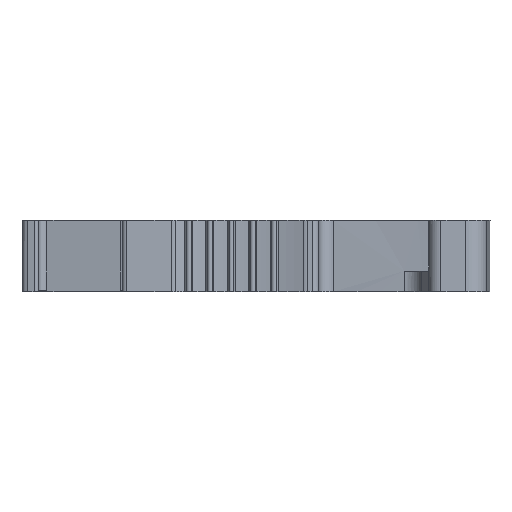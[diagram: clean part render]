
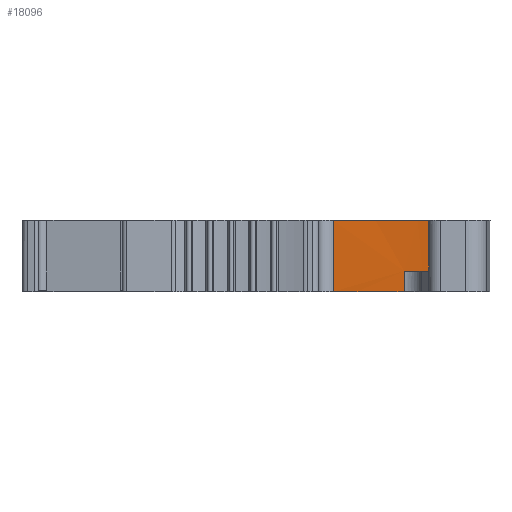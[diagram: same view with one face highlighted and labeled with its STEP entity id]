
A CAD part, left-side view. The second image highlights one B-rep face of the part: STEP entity #18096.
In plain terms, the highlighted cylindrical face has radius 89.942 mm (diameter 179.883 mm), a partial arc.
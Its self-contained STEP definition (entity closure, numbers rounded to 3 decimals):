
#18096 = ADVANCED_FACE('',(#18097),#18112,.F.);
#18097 = FACE_BOUND('',#18098,.F.);
#18098 = EDGE_LOOP('',(#18099,#18122,#18137,#18153,#18191,#18207));
#18099 = ORIENTED_EDGE('',*,*,#18100,.F.);
#18100 = EDGE_CURVE('',#18101,#18103,#18105,.T.);
#18101 = VERTEX_POINT('',#18102);
#18102 = CARTESIAN_POINT('',(-32.709,-7.482,25.2));
#18103 = VERTEX_POINT('',#18104);
#18104 = CARTESIAN_POINT('',(-31.75,1.748,25.2));
#18105 = SURFACE_CURVE('',#18106,(#18111),.PCURVE_S1.);
#18106 = CIRCLE('',#18107,89.942);
#18107 = AXIS2_PLACEMENT_3D('',#18108,#18109,#18110);
#18108 = CARTESIAN_POINT('',(-121.571,6.407,25.2));
#18109 = DIRECTION('',(0.,0.,1.));
#18110 = DIRECTION('',(1.,0.,0.));
#18111 = PCURVE('',#18112,#18117);
#18112 = CYLINDRICAL_SURFACE('',#18113,89.942);
#18113 = AXIS2_PLACEMENT_3D('',#18114,#18115,#18116);
#18114 = CARTESIAN_POINT('',(-121.571,6.407,28.2));
#18115 = DIRECTION('',(0.,0.,1.));
#18116 = DIRECTION('',(1.,0.,0.));
#18117 = DEFINITIONAL_REPRESENTATION('',(#18118),#18121);
#18118 = B_SPLINE_CURVE_WITH_KNOTS('',1,(#18119,#18120),.UNSPECIFIED.,
  .F.,.F.,(2,2),(6.128,6.231),
  .PIECEWISE_BEZIER_KNOTS.);
#18119 = CARTESIAN_POINT('',(6.128,-3.));
#18120 = CARTESIAN_POINT('',(6.231,-3.));
#18121 = ( GEOMETRIC_REPRESENTATION_CONTEXT(2) 
PARAMETRIC_REPRESENTATION_CONTEXT() REPRESENTATION_CONTEXT('2D SPACE',''
  ) );
#18122 = ORIENTED_EDGE('',*,*,#18123,.F.);
#18123 = EDGE_CURVE('',#18124,#18101,#18126,.T.);
#18124 = VERTEX_POINT('',#18125);
#18125 = CARTESIAN_POINT('',(-32.709,-7.482,21.5));
#18126 = SURFACE_CURVE('',#18127,(#18131),.PCURVE_S1.);
#18127 = LINE('',#18128,#18129);
#18128 = CARTESIAN_POINT('',(-32.709,-7.482,28.2
    ));
#18129 = VECTOR('',#18130,1.);
#18130 = DIRECTION('',(0.,0.,1.));
#18131 = PCURVE('',#18112,#18132);
#18132 = DEFINITIONAL_REPRESENTATION('',(#18133),#18136);
#18133 = B_SPLINE_CURVE_WITH_KNOTS('',1,(#18134,#18135),.UNSPECIFIED.,
  .F.,.F.,(2,2),(-6.7,-3.),.PIECEWISE_BEZIER_KNOTS.);
#18134 = CARTESIAN_POINT('',(6.128,-6.7));
#18135 = CARTESIAN_POINT('',(6.128,-3.));
#18136 = ( GEOMETRIC_REPRESENTATION_CONTEXT(2) 
PARAMETRIC_REPRESENTATION_CONTEXT() REPRESENTATION_CONTEXT('2D SPACE',''
  ) );
#18137 = ORIENTED_EDGE('',*,*,#18138,.F.);
#18138 = EDGE_CURVE('',#18139,#18124,#18141,.T.);
#18139 = VERTEX_POINT('',#18140);
#18140 = CARTESIAN_POINT('',(-32.169,-3.424,21.5));
#18141 = SURFACE_CURVE('',#18142,(#18147),.PCURVE_S1.);
#18142 = CIRCLE('',#18143,89.942);
#18143 = AXIS2_PLACEMENT_3D('',#18144,#18145,#18146);
#18144 = CARTESIAN_POINT('',(-121.571,6.407,21.5)
  );
#18145 = DIRECTION('',(0.,0.,-1.));
#18146 = DIRECTION('',(1.,0.,0.));
#18147 = PCURVE('',#18112,#18148);
#18148 = DEFINITIONAL_REPRESENTATION('',(#18149),#18152);
#18149 = B_SPLINE_CURVE_WITH_KNOTS('',1,(#18150,#18151),.UNSPECIFIED.,
  .F.,.F.,(2,2),(0.11,0.155),
  .PIECEWISE_BEZIER_KNOTS.);
#18150 = CARTESIAN_POINT('',(6.174,-6.7));
#18151 = CARTESIAN_POINT('',(6.128,-6.7));
#18152 = ( GEOMETRIC_REPRESENTATION_CONTEXT(2) 
PARAMETRIC_REPRESENTATION_CONTEXT() REPRESENTATION_CONTEXT('2D SPACE',''
  ) );
#18153 = ORIENTED_EDGE('',*,*,#18154,.F.);
#18154 = EDGE_CURVE('',#18155,#18139,#18157,.T.);
#18155 = VERTEX_POINT('',#18156);
#18156 = CARTESIAN_POINT('',(-32.169,-3.428,20.
    ));
#18157 = SURFACE_CURVE('',#18158,(#18162),.PCURVE_S1.);
#18158 = LINE('',#18159,#18160);
#18159 = CARTESIAN_POINT('',(-32.169,-3.426,
    20.75));
#18160 = VECTOR('',#18161,1.);
#18161 = DIRECTION('',(0.,0.002,
    1.));
#18162 = PCURVE('',#18112,#18163);
#18163 = DEFINITIONAL_REPRESENTATION('',(#18164),#18190);
#18164 = B_SPLINE_CURVE_WITH_KNOTS('',3,(#18165,#18166,#18167,#18168,
    #18169,#18170,#18171,#18172,#18173,#18174,#18175,#18176,#18177,
    #18178,#18179,#18180,#18181,#18182,#18183,#18184,#18185,#18186,
    #18187,#18188,#18189),.UNSPECIFIED.,.F.,.F.,(4,1,1,1,1,1,1,1,1,1,1,1
    ,1,1,1,1,1,1,1,1,1,1,4),(-0.75,-0.682,
    -0.614,-0.545,-0.477,-0.409,
    -0.341,-0.273,-0.205,-0.136,
    -0.068,0.,0.068,
    0.136,0.205,0.273,0.341,
    0.409,0.477,0.545,0.614,
    0.682,0.75),.UNSPECIFIED.);
#18165 = CARTESIAN_POINT('',(6.174,-8.2));
#18166 = CARTESIAN_POINT('',(6.174,-8.177));
#18167 = CARTESIAN_POINT('',(6.174,-8.132));
#18168 = CARTESIAN_POINT('',(6.174,-8.064));
#18169 = CARTESIAN_POINT('',(6.174,-7.995));
#18170 = CARTESIAN_POINT('',(6.174,-7.927));
#18171 = CARTESIAN_POINT('',(6.174,-7.859));
#18172 = CARTESIAN_POINT('',(6.174,-7.791));
#18173 = CARTESIAN_POINT('',(6.174,-7.723));
#18174 = CARTESIAN_POINT('',(6.174,-7.655));
#18175 = CARTESIAN_POINT('',(6.174,-7.586));
#18176 = CARTESIAN_POINT('',(6.174,-7.518));
#18177 = CARTESIAN_POINT('',(6.174,-7.45));
#18178 = CARTESIAN_POINT('',(6.174,-7.382));
#18179 = CARTESIAN_POINT('',(6.174,-7.314));
#18180 = CARTESIAN_POINT('',(6.174,-7.245));
#18181 = CARTESIAN_POINT('',(6.174,-7.177));
#18182 = CARTESIAN_POINT('',(6.174,-7.109));
#18183 = CARTESIAN_POINT('',(6.174,-7.041));
#18184 = CARTESIAN_POINT('',(6.174,-6.973));
#18185 = CARTESIAN_POINT('',(6.174,-6.905));
#18186 = CARTESIAN_POINT('',(6.174,-6.836));
#18187 = CARTESIAN_POINT('',(6.174,-6.768));
#18188 = CARTESIAN_POINT('',(6.174,-6.723));
#18189 = CARTESIAN_POINT('',(6.174,-6.7));
#18190 = ( GEOMETRIC_REPRESENTATION_CONTEXT(2) 
PARAMETRIC_REPRESENTATION_CONTEXT() REPRESENTATION_CONTEXT('2D SPACE',''
  ) );
#18191 = ORIENTED_EDGE('',*,*,#18192,.F.);
#18192 = EDGE_CURVE('',#18193,#18155,#18195,.T.);
#18193 = VERTEX_POINT('',#18194);
#18194 = CARTESIAN_POINT('',(-31.75,1.748,20.)
  );
#18195 = SURFACE_CURVE('',#18196,(#18201),.PCURVE_S1.);
#18196 = CIRCLE('',#18197,89.942);
#18197 = AXIS2_PLACEMENT_3D('',#18198,#18199,#18200);
#18198 = CARTESIAN_POINT('',(-121.571,6.407,20.)
  );
#18199 = DIRECTION('',(0.,0.,-1.));
#18200 = DIRECTION('',(1.,0.,0.));
#18201 = PCURVE('',#18112,#18202);
#18202 = DEFINITIONAL_REPRESENTATION('',(#18203),#18206);
#18203 = B_SPLINE_CURVE_WITH_KNOTS('',1,(#18204,#18205),.UNSPECIFIED.,
  .F.,.F.,(2,2),(0.052,0.11),
  .PIECEWISE_BEZIER_KNOTS.);
#18204 = CARTESIAN_POINT('',(6.231,-8.2));
#18205 = CARTESIAN_POINT('',(6.174,-8.2));
#18206 = ( GEOMETRIC_REPRESENTATION_CONTEXT(2) 
PARAMETRIC_REPRESENTATION_CONTEXT() REPRESENTATION_CONTEXT('2D SPACE',''
  ) );
#18207 = ORIENTED_EDGE('',*,*,#18208,.T.);
#18208 = EDGE_CURVE('',#18193,#18103,#18209,.T.);
#18209 = SURFACE_CURVE('',#18210,(#18214),.PCURVE_S1.);
#18210 = LINE('',#18211,#18212);
#18211 = CARTESIAN_POINT('',(-31.75,1.748,35.238)
  );
#18212 = VECTOR('',#18213,1.);
#18213 = DIRECTION('',(0.,0.,1.));
#18214 = PCURVE('',#18112,#18215);
#18215 = DEFINITIONAL_REPRESENTATION('',(#18216),#18219);
#18216 = B_SPLINE_CURVE_WITH_KNOTS('',1,(#18217,#18218),.UNSPECIFIED.,
  .F.,.F.,(2,2),(-15.238,-10.038),
  .PIECEWISE_BEZIER_KNOTS.);
#18217 = CARTESIAN_POINT('',(6.231,-8.2));
#18218 = CARTESIAN_POINT('',(6.231,-3.));
#18219 = ( GEOMETRIC_REPRESENTATION_CONTEXT(2) 
PARAMETRIC_REPRESENTATION_CONTEXT() REPRESENTATION_CONTEXT('2D SPACE',''
  ) );
